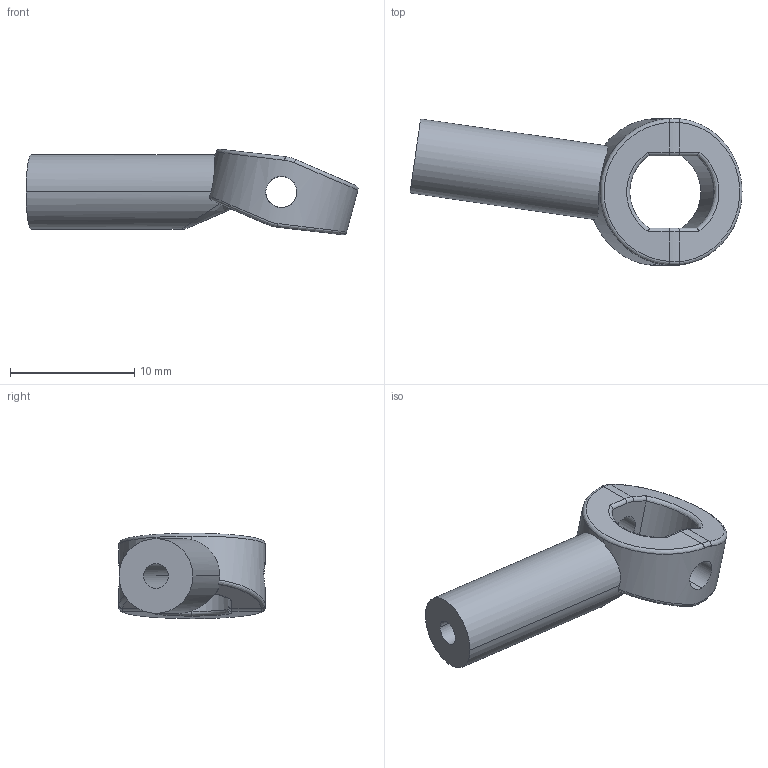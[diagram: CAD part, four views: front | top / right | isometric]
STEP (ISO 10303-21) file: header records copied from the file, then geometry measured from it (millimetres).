
FILE_DESCRIPTION (( 'STEP AP214' ), '1' );
FILE_NAME ('Çåðêàëüíî îòðàçèòüÃèïåð òÿãà 01.STEP', '2019-03-21T14:16:11', ( '' ), ( '' ), 'SwSTEP 2.0', 'SolidWorks 2018', '' );
FILE_SCHEMA (( 'AUTOMOTIVE_DESIGN' ));
Length unit declared in the file: millimetre
Products named in the file (1): Çåðêàëüíî îòðàçèòüÃèïåð òÿãà 01
Bounding box: 26.67 x 11.8 x 6.86 mm (x, y, z)
Volume: 695 mm3; surface area: 832 mm2
Topology: 1 solids, 1 shells, 57 faces, 154 edges, 96 vertices
Faces by surface type: cylinder 25, bspline 19, plane 9, torus 4
Entity records: 2426 total; most frequent: CARTESIAN_POINT 1176, ORIENTED_EDGE 308, DIRECTION 194, EDGE_CURVE 154, VERTEX_POINT 96, AXIS2_PLACEMENT_3D 76, EDGE_LOOP 62, ADVANCED_FACE 57
